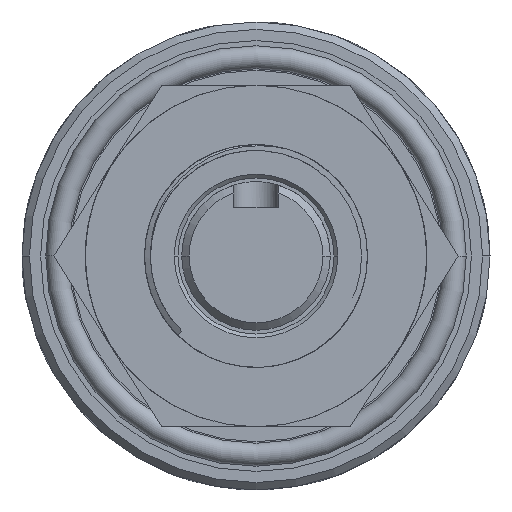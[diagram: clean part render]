
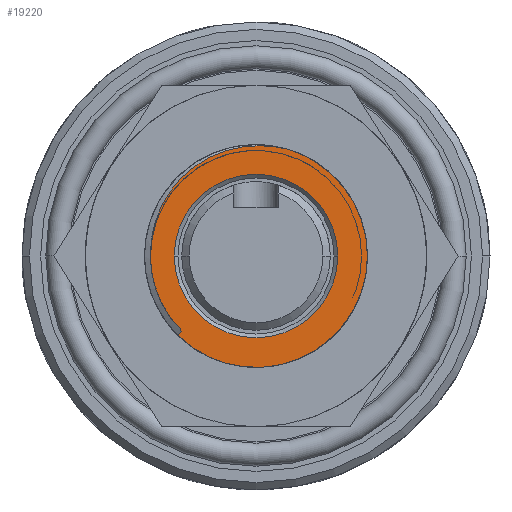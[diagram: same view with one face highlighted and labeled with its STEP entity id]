
A CAD part, left-side view. The second image highlights one B-rep face of the part: STEP entity #19220.
In plain terms, the highlighted planar face has unit normal (-1, 0, 0).
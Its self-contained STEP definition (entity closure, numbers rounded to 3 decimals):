
#12 = VERTEX_POINT ( 'NONE', #21886 ) ;
#13 = EDGE_CURVE ( 'NONE', #12, #16604, #21883, .T. ) ;
#16604 = VERTEX_POINT ( 'NONE', #22113 ) ;
#16681 = EDGE_CURVE ( 'NONE', #16604, #16682, #22572, .T. ) ;
#16682 = VERTEX_POINT ( 'NONE', #22566 ) ;
#19220 = ADVANCED_FACE ( 'NONE', ( #23036, #23038 ), #23093, .T. ) ;
#19221 = EDGE_LOOP ( 'NONE', ( #19222, #19223 ) ) ;
#19222 = ORIENTED_EDGE ( 'NONE', *, *, #21800, .T. ) ;
#19223 = ORIENTED_EDGE ( 'NONE', *, *, #19276, .T. ) ;
#19276 = EDGE_CURVE ( 'NONE', #21655, #21658, #24833, .T. ) ;
#19277 = EDGE_LOOP ( 'NONE', ( #19278, #19281, #19282, #19283, #19284 ) ) ;
#19278 = ORIENTED_EDGE ( 'NONE', *, *, #19279, .F. ) ;
#19279 = EDGE_CURVE ( 'NONE', #19294, #19280, #24919, .T. ) ;
#19280 = VERTEX_POINT ( 'NONE', #24921 ) ;
#19281 = ORIENTED_EDGE ( 'NONE', *, *, #19293, .T. ) ;
#19282 = ORIENTED_EDGE ( 'NONE', *, *, #16681, .F. ) ;
#19283 = ORIENTED_EDGE ( 'NONE', *, *, #13, .F. ) ;
#19284 = ORIENTED_EDGE ( 'NONE', *, *, #19285, .F. ) ;
#19285 = EDGE_CURVE ( 'NONE', #19280, #12, #23825, .T. ) ;
#19293 = EDGE_CURVE ( 'NONE', #19294, #16682, #25909, .T. ) ;
#19294 = VERTEX_POINT ( 'NONE', #25905 ) ;
#21655 = VERTEX_POINT ( 'NONE', #44099 ) ;
#21658 = VERTEX_POINT ( 'NONE', #44097 ) ;
#21800 = EDGE_CURVE ( 'NONE', #21658, #21655, #44868, .T. ) ;
#21877 = DIRECTION ( 'NONE',  ( 0., 1., 0. ) ) ;
#21879 = DIRECTION ( 'NONE',  ( 1., 0., 0. ) ) ;
#21880 = CARTESIAN_POINT ( 'NONE',  ( 55., 0., 0. ) ) ;
#21882 = AXIS2_PLACEMENT_3D ( 'NONE', #21880, #21879, #21877 ) ;
#21883 = CIRCLE ( 'NONE', #21882, 15. ) ;
#21886 = CARTESIAN_POINT ( 'NONE',  ( 55., -5.218, 14.063 ) ) ;
#22113 = CARTESIAN_POINT ( 'NONE',  ( 55., -15., 0. ) ) ;
#22566 = CARTESIAN_POINT ( 'NONE',  ( 55., 10.509, -10.703 ) ) ;
#22568 = DIRECTION ( 'NONE',  ( 0., 1., 0. ) ) ;
#22569 = DIRECTION ( 'NONE',  ( 1., 0., 0. ) ) ;
#22570 = AXIS2_PLACEMENT_3D ( 'NONE', #22578, #22569, #22568 ) ;
#22572 = CIRCLE ( 'NONE', #22570, 15. ) ;
#22578 = CARTESIAN_POINT ( 'NONE',  ( 55., 0., 0. ) ) ;
#23036 = FACE_BOUND ( 'NONE', #19221, .T. ) ;
#23038 = FACE_OUTER_BOUND ( 'NONE', #19277, .T. ) ;
#23089 = DIRECTION ( 'NONE',  ( 0., -1., 0. ) ) ;
#23090 = DIRECTION ( 'NONE',  ( -1., 0., 0. ) ) ;
#23091 = CARTESIAN_POINT ( 'NONE',  ( 55., 10., 0. ) ) ;
#23092 = AXIS2_PLACEMENT_3D ( 'NONE', #23091, #23090, #23089 ) ;
#23093 = PLANE ( 'NONE',  #23092 ) ;
#23804 = CARTESIAN_POINT ( 'NONE',  ( 55., 10.009, 10.563 ) ) ;
#23806 = CARTESIAN_POINT ( 'NONE',  ( 55., 10.42, 10.133 ) ) ;
#23808 = CARTESIAN_POINT ( 'NONE',  ( 55., 11.558, 8.786 ) ) ;
#23810 = CARTESIAN_POINT ( 'NONE',  ( 55., 12.198, 7.81 ) ) ;
#23812 = CARTESIAN_POINT ( 'NONE',  ( 55., 12.98, 6.23 ) ) ;
#23814 = CARTESIAN_POINT ( 'NONE',  ( 55., 13.21, 5.683 ) ) ;
#23816 = CARTESIAN_POINT ( 'NONE',  ( 55., 13.599, 4.575 ) ) ;
#23825 = B_SPLINE_CURVE_WITH_KNOTS ( 'NONE', 3,
 ( #24910, #24908, #24868, #24866, #24863, #24862, #23816, #23814, #23812, #23810, #23808, #23806, #23804, #25017, #25016, #25015, #25014, #25013, #25012, #25011, #25009, #25008, #25006, #25004, #25002, #25000, #24998, #24996 ),
 .UNSPECIFIED., .F., .F.,
 ( 4, 2, 2, 2, 2, 2, 2, 2, 2, 2, 2, 2, 2, 4 ),
 ( 0., 0.002, 0.004, 0.005, 0.007, 0.011, 0.012, 0.014, 0.018, 0.019, 0.021, 0.025, 0.027, 0.028 ),
 .UNSPECIFIED. ) ;
#24827 = DIRECTION ( 'NONE',  ( 0., -1., 0. ) ) ;
#24829 = DIRECTION ( 'NONE',  ( 1., 0., 0. ) ) ;
#24831 = AXIS2_PLACEMENT_3D ( 'NONE', #24847, #24829, #24827 ) ;
#24833 = CIRCLE ( 'NONE', #24831, 11. ) ;
#24847 = CARTESIAN_POINT ( 'NONE',  ( 55., 0., 0. ) ) ;
#24862 = CARTESIAN_POINT ( 'NONE',  ( 55., 13.76, 4.012 ) ) ;
#24863 = CARTESIAN_POINT ( 'NONE',  ( 55., 14.012, 2.868 ) ) ;
#24866 = CARTESIAN_POINT ( 'NONE',  ( 55., 14.103, 2.284 ) ) ;
#24868 = CARTESIAN_POINT ( 'NONE',  ( 55., 14.21, 1.107 ) ) ;
#24885 = CARTESIAN_POINT ( 'NONE',  ( 55., 14.207, -0.075 ) ) ;
#24887 = CARTESIAN_POINT ( 'NONE',  ( 55., 14.202, -1.008 ) ) ;
#24889 = CARTESIAN_POINT ( 'NONE',  ( 55., 14.106, -1.931 ) ) ;
#24891 = CARTESIAN_POINT ( 'NONE',  ( 55., 13.732, -3.758 ) ) ;
#24893 = CARTESIAN_POINT ( 'NONE',  ( 55., 13.455, -4.654 ) ) ;
#24895 = CARTESIAN_POINT ( 'NONE',  ( 55., 12.914, -5.94 ) ) ;
#24897 = CARTESIAN_POINT ( 'NONE',  ( 55., 12.711, -6.362 ) ) ;
#24899 = CARTESIAN_POINT ( 'NONE',  ( 55., 12.267, -7.181 ) ) ;
#24901 = CARTESIAN_POINT ( 'NONE',  ( 55., 12.026, -7.578 ) ) ;
#24903 = CARTESIAN_POINT ( 'NONE',  ( 55., 11.243, -8.735 ) ) ;
#24905 = CARTESIAN_POINT ( 'NONE',  ( 55., 10.643, -9.456 ) ) ;
#24907 = CARTESIAN_POINT ( 'NONE',  ( 55., 9.979, -10.112 ) ) ;
#24908 = CARTESIAN_POINT ( 'NONE',  ( 55., 14.227, 0.517 ) ) ;
#24910 = CARTESIAN_POINT ( 'NONE',  ( 55., 14.207, -0.075 ) ) ;
#24919 = B_SPLINE_CURVE_WITH_KNOTS ( 'NONE', 3,
 ( #24907, #24905, #24903, #24901, #24899, #24897, #24895, #24893, #24891, #24889, #24887, #24885 ),
 .UNSPECIFIED., .F., .F.,
 ( 4, 2, 2, 2, 2, 4 ),
 ( 0., 0.003, 0.004, 0.006, 0.008, 0.011 ),
 .UNSPECIFIED. ) ;
#24921 = CARTESIAN_POINT ( 'NONE',  ( 55., 14.207, -0.075 ) ) ;
#24996 = CARTESIAN_POINT ( 'NONE',  ( 55., -5.218, 14.063 ) ) ;
#24998 = CARTESIAN_POINT ( 'NONE',  ( 55., -4.659, 14.253 ) ) ;
#25000 = CARTESIAN_POINT ( 'NONE',  ( 55., -4.091, 14.408 ) ) ;
#25002 = CARTESIAN_POINT ( 'NONE',  ( 55., -2.938, 14.652 ) ) ;
#25004 = CARTESIAN_POINT ( 'NONE',  ( 55., -2.351, 14.74 ) ) ;
#25006 = CARTESIAN_POINT ( 'NONE',  ( 55., -0.6, 14.899 ) ) ;
#25008 = CARTESIAN_POINT ( 'NONE',  ( 55., 0.567, 14.868 ) ) ;
#25009 = CARTESIAN_POINT ( 'NONE',  ( 55., 2.319, 14.613 ) ) ;
#25011 = CARTESIAN_POINT ( 'NONE',  ( 55., 2.899, 14.493 ) ) ;
#25012 = CARTESIAN_POINT ( 'NONE',  ( 55., 4.038, 14.186 ) ) ;
#25013 = CARTESIAN_POINT ( 'NONE',  ( 55., 4.601, 13.998 ) ) ;
#25014 = CARTESIAN_POINT ( 'NONE',  ( 55., 6.233, 13.338 ) ) ;
#25015 = CARTESIAN_POINT ( 'NONE',  ( 55., 7.254, 12.775 ) ) ;
#25016 = CARTESIAN_POINT ( 'NONE',  ( 55., 8.686, 11.741 ) ) ;
#25017 = CARTESIAN_POINT ( 'NONE',  ( 55., 9.145, 11.365 ) ) ;
#25905 = CARTESIAN_POINT ( 'NONE',  ( 55., 9.979, -10.112 ) ) ;
#25906 = DIRECTION ( 'NONE',  ( 0., 0.667, -0.745 ) ) ;
#25907 = VECTOR ( 'NONE', #25906, 1000. ) ;
#25908 = CARTESIAN_POINT ( 'NONE',  ( 55., 4.963, -4.511 ) ) ;
#25909 = LINE ( 'NONE', #25908, #25907 ) ;
#44097 = CARTESIAN_POINT ( 'NONE',  ( 55., -11., 0. ) ) ;
#44099 = CARTESIAN_POINT ( 'NONE',  ( 55., 11., 0. ) ) ;
#44861 = DIRECTION ( 'NONE',  ( 0., -1., 0. ) ) ;
#44863 = DIRECTION ( 'NONE',  ( 1., 0., 0. ) ) ;
#44864 = CARTESIAN_POINT ( 'NONE',  ( 55., 0., 0. ) ) ;
#44866 = AXIS2_PLACEMENT_3D ( 'NONE', #44864, #44863, #44861 ) ;
#44868 = CIRCLE ( 'NONE', #44866, 11. ) ;
